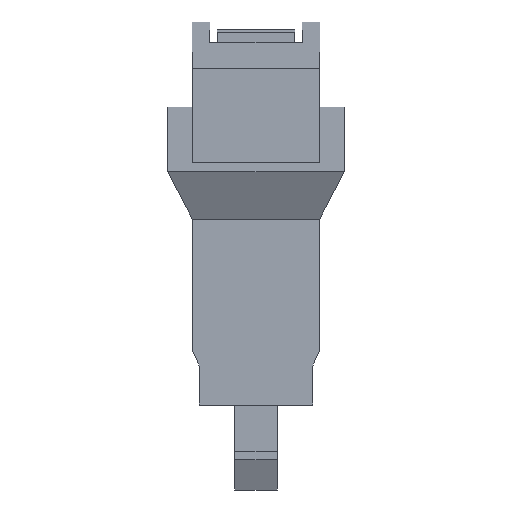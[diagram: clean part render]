
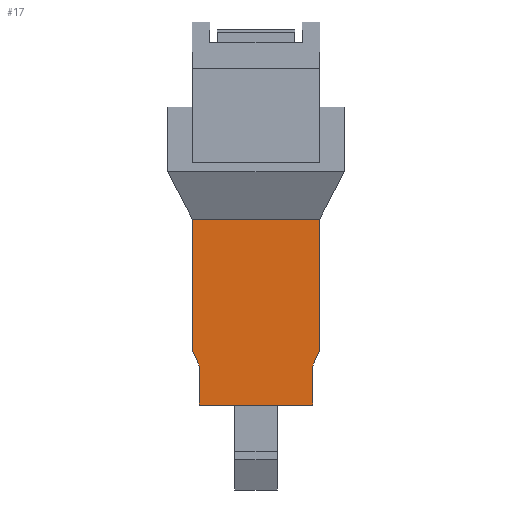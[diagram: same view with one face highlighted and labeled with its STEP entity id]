
A CAD part, left-side view. The second image highlights one B-rep face of the part: STEP entity #17.
In plain terms, the highlighted planar face has unit normal (-1, 0, 0).
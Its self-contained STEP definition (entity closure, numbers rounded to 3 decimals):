
#17 = ADVANCED_FACE('',(#18),#32,.F.);
#18 = FACE_BOUND('',#19,.F.);
#19 = EDGE_LOOP('',(#20,#55,#81,#107,#135,#161,#187,#215));
#20 = ORIENTED_EDGE('',*,*,#21,.F.);
#21 = EDGE_CURVE('',#22,#24,#26,.T.);
#22 = VERTEX_POINT('',#23);
#23 = CARTESIAN_POINT('',(-3.6,-3.6,-14.679));
#24 = VERTEX_POINT('',#25);
#25 = CARTESIAN_POINT('',(-3.6,-3.6,-7.27));
#26 = SURFACE_CURVE('',#27,(#31,#43),.PCURVE_S1.);
#27 = LINE('',#28,#29);
#28 = CARTESIAN_POINT('',(-3.6,-3.6,-17.779));
#29 = VECTOR('',#30,1.);
#30 = DIRECTION('',(0.,0.,1.));
#31 = PCURVE('',#32,#37);
#32 = PLANE('',#33);
#33 = AXIS2_PLACEMENT_3D('',#34,#35,#36);
#34 = CARTESIAN_POINT('',(-3.6,-3.6,-17.779));
#35 = DIRECTION('',(1.,0.,-0.));
#36 = DIRECTION('',(0.,0.,1.));
#37 = DEFINITIONAL_REPRESENTATION('',(#38),#42);
#38 = LINE('',#39,#40);
#39 = CARTESIAN_POINT('',(0.,0.));
#40 = VECTOR('',#41,1.);
#41 = DIRECTION('',(1.,0.));
#42 = ( GEOMETRIC_REPRESENTATION_CONTEXT(2) 
PARAMETRIC_REPRESENTATION_CONTEXT() REPRESENTATION_CONTEXT('2D SPACE',''
  ) );
#43 = PCURVE('',#44,#49);
#44 = PLANE('',#45);
#45 = AXIS2_PLACEMENT_3D('',#46,#47,#48);
#46 = CARTESIAN_POINT('',(-3.6,-3.6,-17.779));
#47 = DIRECTION('',(-0.,1.,0.));
#48 = DIRECTION('',(0.,0.,1.));
#49 = DEFINITIONAL_REPRESENTATION('',(#50),#54);
#50 = LINE('',#51,#52);
#51 = CARTESIAN_POINT('',(0.,0.));
#52 = VECTOR('',#53,1.);
#53 = DIRECTION('',(1.,0.));
#54 = ( GEOMETRIC_REPRESENTATION_CONTEXT(2) 
PARAMETRIC_REPRESENTATION_CONTEXT() REPRESENTATION_CONTEXT('2D SPACE',''
  ) );
#55 = ORIENTED_EDGE('',*,*,#56,.F.);
#56 = EDGE_CURVE('',#57,#22,#59,.T.);
#57 = VERTEX_POINT('',#58);
#58 = CARTESIAN_POINT('',(-3.6,-3.2,-15.579));
#59 = SURFACE_CURVE('',#60,(#64,#70),.PCURVE_S1.);
#60 = LINE('',#61,#62);
#61 = CARTESIAN_POINT('',(-3.6,-3.025,-15.973));
#62 = VECTOR('',#63,1.);
#63 = DIRECTION('',(0.,-0.406,0.914));
#64 = PCURVE('',#32,#65);
#65 = DEFINITIONAL_REPRESENTATION('',(#66),#69);
#66 = B_SPLINE_CURVE_WITH_KNOTS('',1,(#67,#68),.UNSPECIFIED.,.F.,.F.,(2,
    2),(0.432,1.416),.PIECEWISE_BEZIER_KNOTS.);
#67 = CARTESIAN_POINT('',(2.2,-0.4));
#68 = CARTESIAN_POINT('',(3.1,0.));
#69 = ( GEOMETRIC_REPRESENTATION_CONTEXT(2) 
PARAMETRIC_REPRESENTATION_CONTEXT() REPRESENTATION_CONTEXT('2D SPACE',''
  ) );
#70 = PCURVE('',#71,#76);
#71 = PLANE('',#72);
#72 = AXIS2_PLACEMENT_3D('',#73,#74,#75);
#73 = CARTESIAN_POINT('',(-4.,-3.6,-14.679));
#74 = DIRECTION('',(-0.,0.914,0.406));
#75 = DIRECTION('',(0.,0.406,-0.914));
#76 = DEFINITIONAL_REPRESENTATION('',(#77),#80);
#77 = B_SPLINE_CURVE_WITH_KNOTS('',1,(#78,#79),.UNSPECIFIED.,.F.,.F.,(2,
    2),(0.432,1.416),.PIECEWISE_BEZIER_KNOTS.);
#78 = CARTESIAN_POINT('',(0.985,-0.4));
#79 = CARTESIAN_POINT('',(0.,-0.4));
#80 = ( GEOMETRIC_REPRESENTATION_CONTEXT(2) 
PARAMETRIC_REPRESENTATION_CONTEXT() REPRESENTATION_CONTEXT('2D SPACE',''
  ) );
#81 = ORIENTED_EDGE('',*,*,#82,.F.);
#82 = EDGE_CURVE('',#83,#57,#85,.T.);
#83 = VERTEX_POINT('',#84);
#84 = CARTESIAN_POINT('',(-3.6,-3.2,-17.779));
#85 = SURFACE_CURVE('',#86,(#90,#96),.PCURVE_S1.);
#86 = LINE('',#87,#88);
#87 = CARTESIAN_POINT('',(-3.6,-3.2,-16.679));
#88 = VECTOR('',#89,1.);
#89 = DIRECTION('',(0.,0.,1.));
#90 = PCURVE('',#32,#91);
#91 = DEFINITIONAL_REPRESENTATION('',(#92),#95);
#92 = B_SPLINE_CURVE_WITH_KNOTS('',1,(#93,#94),.UNSPECIFIED.,.F.,.F.,(2,
    2),(-1.1,1.1),.PIECEWISE_BEZIER_KNOTS.);
#93 = CARTESIAN_POINT('',(0.,-0.4));
#94 = CARTESIAN_POINT('',(2.2,-0.4));
#95 = ( GEOMETRIC_REPRESENTATION_CONTEXT(2) 
PARAMETRIC_REPRESENTATION_CONTEXT() REPRESENTATION_CONTEXT('2D SPACE',''
  ) );
#96 = PCURVE('',#97,#102);
#97 = PLANE('',#98);
#98 = AXIS2_PLACEMENT_3D('',#99,#100,#101);
#99 = CARTESIAN_POINT('',(-4.,-3.2,-15.579));
#100 = DIRECTION('',(-0.,1.,0.));
#101 = DIRECTION('',(0.,0.,-1.));
#102 = DEFINITIONAL_REPRESENTATION('',(#103),#106);
#103 = B_SPLINE_CURVE_WITH_KNOTS('',1,(#104,#105),.UNSPECIFIED.,.F.,.F.,
  (2,2),(-1.1,1.1),.PIECEWISE_BEZIER_KNOTS.);
#104 = CARTESIAN_POINT('',(2.2,-0.4));
#105 = CARTESIAN_POINT('',(0.,-0.4));
#106 = ( GEOMETRIC_REPRESENTATION_CONTEXT(2) 
PARAMETRIC_REPRESENTATION_CONTEXT() REPRESENTATION_CONTEXT('2D SPACE',''
  ) );
#107 = ORIENTED_EDGE('',*,*,#108,.T.);
#108 = EDGE_CURVE('',#83,#109,#111,.T.);
#109 = VERTEX_POINT('',#110);
#110 = CARTESIAN_POINT('',(-3.6,3.2,-17.779));
#111 = SURFACE_CURVE('',#112,(#116,#123),.PCURVE_S1.);
#112 = LINE('',#113,#114);
#113 = CARTESIAN_POINT('',(-3.6,-3.6,-17.779));
#114 = VECTOR('',#115,1.);
#115 = DIRECTION('',(-0.,1.,0.));
#116 = PCURVE('',#32,#117);
#117 = DEFINITIONAL_REPRESENTATION('',(#118),#122);
#118 = LINE('',#119,#120);
#119 = CARTESIAN_POINT('',(0.,0.));
#120 = VECTOR('',#121,1.);
#121 = DIRECTION('',(0.,-1.));
#122 = ( GEOMETRIC_REPRESENTATION_CONTEXT(2) 
PARAMETRIC_REPRESENTATION_CONTEXT() REPRESENTATION_CONTEXT('2D SPACE',''
  ) );
#123 = PCURVE('',#124,#129);
#124 = PLANE('',#125);
#125 = AXIS2_PLACEMENT_3D('',#126,#127,#128);
#126 = CARTESIAN_POINT('',(-3.6,-3.6,-17.779));
#127 = DIRECTION('',(0.,0.,1.));
#128 = DIRECTION('',(1.,0.,-0.));
#129 = DEFINITIONAL_REPRESENTATION('',(#130),#134);
#130 = LINE('',#131,#132);
#131 = CARTESIAN_POINT('',(0.,0.));
#132 = VECTOR('',#133,1.);
#133 = DIRECTION('',(0.,1.));
#134 = ( GEOMETRIC_REPRESENTATION_CONTEXT(2) 
PARAMETRIC_REPRESENTATION_CONTEXT() REPRESENTATION_CONTEXT('2D SPACE',''
  ) );
#135 = ORIENTED_EDGE('',*,*,#136,.T.);
#136 = EDGE_CURVE('',#109,#137,#139,.T.);
#137 = VERTEX_POINT('',#138);
#138 = CARTESIAN_POINT('',(-3.6,3.2,-15.579));
#139 = SURFACE_CURVE('',#140,(#144,#150),.PCURVE_S1.);
#140 = LINE('',#141,#142);
#141 = CARTESIAN_POINT('',(-3.6,3.2,-16.679));
#142 = VECTOR('',#143,1.);
#143 = DIRECTION('',(0.,0.,1.));
#144 = PCURVE('',#32,#145);
#145 = DEFINITIONAL_REPRESENTATION('',(#146),#149);
#146 = B_SPLINE_CURVE_WITH_KNOTS('',1,(#147,#148),.UNSPECIFIED.,.F.,.F.,
  (2,2),(-1.1,1.1),.PIECEWISE_BEZIER_KNOTS.);
#147 = CARTESIAN_POINT('',(0.,-6.8));
#148 = CARTESIAN_POINT('',(2.2,-6.8));
#149 = ( GEOMETRIC_REPRESENTATION_CONTEXT(2) 
PARAMETRIC_REPRESENTATION_CONTEXT() REPRESENTATION_CONTEXT('2D SPACE',''
  ) );
#150 = PCURVE('',#151,#156);
#151 = PLANE('',#152);
#152 = AXIS2_PLACEMENT_3D('',#153,#154,#155);
#153 = CARTESIAN_POINT('',(-4.,3.2,-15.579));
#154 = DIRECTION('',(-0.,1.,0.));
#155 = DIRECTION('',(0.,0.,-1.));
#156 = DEFINITIONAL_REPRESENTATION('',(#157),#160);
#157 = B_SPLINE_CURVE_WITH_KNOTS('',1,(#158,#159),.UNSPECIFIED.,.F.,.F.,
  (2,2),(-1.1,1.1),.PIECEWISE_BEZIER_KNOTS.);
#158 = CARTESIAN_POINT('',(2.2,-0.4));
#159 = CARTESIAN_POINT('',(0.,-0.4));
#160 = ( GEOMETRIC_REPRESENTATION_CONTEXT(2) 
PARAMETRIC_REPRESENTATION_CONTEXT() REPRESENTATION_CONTEXT('2D SPACE',''
  ) );
#161 = ORIENTED_EDGE('',*,*,#162,.T.);
#162 = EDGE_CURVE('',#137,#163,#165,.T.);
#163 = VERTEX_POINT('',#164);
#164 = CARTESIAN_POINT('',(-3.6,3.6,-14.679));
#165 = SURFACE_CURVE('',#166,(#170,#176),.PCURVE_S1.);
#166 = LINE('',#167,#168);
#167 = CARTESIAN_POINT('',(-3.6,2.431,-17.309));
#168 = VECTOR('',#169,1.);
#169 = DIRECTION('',(0.,0.406,0.914));
#170 = PCURVE('',#32,#171);
#171 = DEFINITIONAL_REPRESENTATION('',(#172),#175);
#172 = B_SPLINE_CURVE_WITH_KNOTS('',1,(#173,#174),.UNSPECIFIED.,.F.,.F.,
  (2,2),(1.894,2.879),.PIECEWISE_BEZIER_KNOTS.);
#173 = CARTESIAN_POINT('',(2.2,-6.8));
#174 = CARTESIAN_POINT('',(3.1,-7.2));
#175 = ( GEOMETRIC_REPRESENTATION_CONTEXT(2) 
PARAMETRIC_REPRESENTATION_CONTEXT() REPRESENTATION_CONTEXT('2D SPACE',''
  ) );
#176 = PCURVE('',#177,#182);
#177 = PLANE('',#178);
#178 = AXIS2_PLACEMENT_3D('',#179,#180,#181);
#179 = CARTESIAN_POINT('',(-4.,3.6,-14.679));
#180 = DIRECTION('',(0.,0.914,-0.406));
#181 = DIRECTION('',(0.,-0.406,-0.914));
#182 = DEFINITIONAL_REPRESENTATION('',(#183),#186);
#183 = B_SPLINE_CURVE_WITH_KNOTS('',1,(#184,#185),.UNSPECIFIED.,.F.,.F.,
  (2,2),(1.894,2.879),.PIECEWISE_BEZIER_KNOTS.);
#184 = CARTESIAN_POINT('',(0.985,-0.4));
#185 = CARTESIAN_POINT('',(0.,-0.4));
#186 = ( GEOMETRIC_REPRESENTATION_CONTEXT(2) 
PARAMETRIC_REPRESENTATION_CONTEXT() REPRESENTATION_CONTEXT('2D SPACE',''
  ) );
#187 = ORIENTED_EDGE('',*,*,#188,.T.);
#188 = EDGE_CURVE('',#163,#189,#191,.T.);
#189 = VERTEX_POINT('',#190);
#190 = CARTESIAN_POINT('',(-3.6,3.6,-7.27));
#191 = SURFACE_CURVE('',#192,(#196,#203),.PCURVE_S1.);
#192 = LINE('',#193,#194);
#193 = CARTESIAN_POINT('',(-3.6,3.6,-17.779));
#194 = VECTOR('',#195,1.);
#195 = DIRECTION('',(0.,0.,1.));
#196 = PCURVE('',#32,#197);
#197 = DEFINITIONAL_REPRESENTATION('',(#198),#202);
#198 = LINE('',#199,#200);
#199 = CARTESIAN_POINT('',(0.,-7.2));
#200 = VECTOR('',#201,1.);
#201 = DIRECTION('',(1.,0.));
#202 = ( GEOMETRIC_REPRESENTATION_CONTEXT(2) 
PARAMETRIC_REPRESENTATION_CONTEXT() REPRESENTATION_CONTEXT('2D SPACE',''
  ) );
#203 = PCURVE('',#204,#209);
#204 = PLANE('',#205);
#205 = AXIS2_PLACEMENT_3D('',#206,#207,#208);
#206 = CARTESIAN_POINT('',(-3.6,3.6,-17.779));
#207 = DIRECTION('',(-0.,1.,0.));
#208 = DIRECTION('',(0.,0.,1.));
#209 = DEFINITIONAL_REPRESENTATION('',(#210),#214);
#210 = LINE('',#211,#212);
#211 = CARTESIAN_POINT('',(0.,0.));
#212 = VECTOR('',#213,1.);
#213 = DIRECTION('',(1.,0.));
#214 = ( GEOMETRIC_REPRESENTATION_CONTEXT(2) 
PARAMETRIC_REPRESENTATION_CONTEXT() REPRESENTATION_CONTEXT('2D SPACE',''
  ) );
#215 = ORIENTED_EDGE('',*,*,#216,.T.);
#216 = EDGE_CURVE('',#189,#24,#217,.T.);
#217 = SURFACE_CURVE('',#218,(#222,#229),.PCURVE_S1.);
#218 = LINE('',#219,#220);
#219 = CARTESIAN_POINT('',(-3.6,3.6,-7.27));
#220 = VECTOR('',#221,1.);
#221 = DIRECTION('',(0.,-1.,0.));
#222 = PCURVE('',#32,#223);
#223 = DEFINITIONAL_REPRESENTATION('',(#224),#228);
#224 = LINE('',#225,#226);
#225 = CARTESIAN_POINT('',(10.509,-7.2));
#226 = VECTOR('',#227,1.);
#227 = DIRECTION('',(0.,1.));
#228 = ( GEOMETRIC_REPRESENTATION_CONTEXT(2) 
PARAMETRIC_REPRESENTATION_CONTEXT() REPRESENTATION_CONTEXT('2D SPACE',''
  ) );
#229 = PCURVE('',#230,#235);
#230 = B_SPLINE_SURFACE_WITH_KNOTS('',1,1,(
    (#231,#232)
    ,(#233,#234
  )),.UNSPECIFIED.,.F.,.F.,.F.,(2,2),(2,2),(0.,10.),(0.,1.),
  .PIECEWISE_BEZIER_KNOTS.);
#231 = CARTESIAN_POINT('',(-3.6,3.6,-7.27));
#232 = CARTESIAN_POINT('',(-5.,5.,-4.587));
#233 = CARTESIAN_POINT('',(-3.6,-3.6,-7.27));
#234 = CARTESIAN_POINT('',(-5.,-5.,-4.587));
#235 = DEFINITIONAL_REPRESENTATION('',(#236),#239);
#236 = B_SPLINE_CURVE_WITH_KNOTS('',1,(#237,#238),.UNSPECIFIED.,.F.,.F.,
  (2,2),(0.,7.2),.PIECEWISE_BEZIER_KNOTS.);
#237 = CARTESIAN_POINT('',(0.,0.));
#238 = CARTESIAN_POINT('',(10.,0.));
#239 = ( GEOMETRIC_REPRESENTATION_CONTEXT(2) 
PARAMETRIC_REPRESENTATION_CONTEXT() REPRESENTATION_CONTEXT('2D SPACE',''
  ) );
